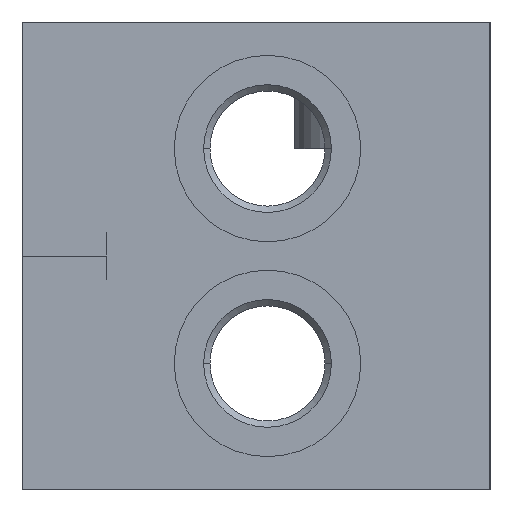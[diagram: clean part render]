
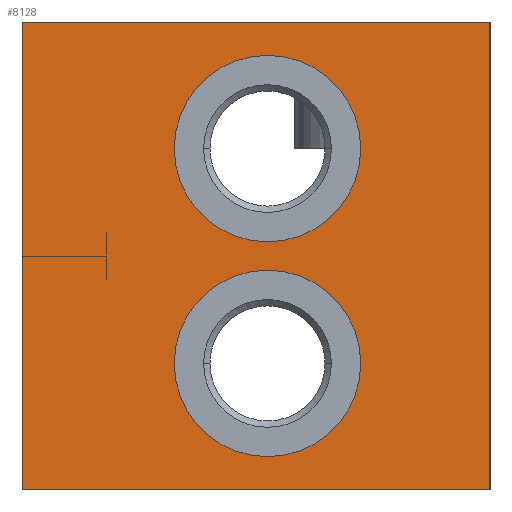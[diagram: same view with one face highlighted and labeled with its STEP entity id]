
A CAD part, left-side view. The second image highlights one B-rep face of the part: STEP entity #8128.
In plain terms, the highlighted planar face has unit normal (-1, 0, 0).
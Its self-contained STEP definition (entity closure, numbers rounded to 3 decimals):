
#25=DIRECTION('',(0.,-1.,0.));
#26=VECTOR('',#25,61.);
#27=CARTESIAN_POINT('',(0.,61.,0.));
#28=LINE('',#27,#26);
#217=DIRECTION('',(0.,0.,-1.));
#218=VECTOR('',#217,61.);
#219=CARTESIAN_POINT('',(0.,0.,0.));
#220=LINE('',#219,#218);
#1603=DIRECTION('',(0.,0.,-1.));
#1604=VECTOR('',#1603,61.);
#1605=CARTESIAN_POINT('',(0.,61.,0.));
#1606=LINE('',#1605,#1604);
#1607=CARTESIAN_POINT('',(0.,29.,-44.5));
#1608=DIRECTION('',(1.,0.,0.));
#1609=DIRECTION('',(0.,-1.,0.));
#1610=AXIS2_PLACEMENT_3D('',#1607,#1608,#1609);
#1612=CARTESIAN_POINT('',(0.,29.,-44.5));
#1613=DIRECTION('',(1.,0.,0.));
#1614=DIRECTION('',(0.,1.,0.));
#1615=AXIS2_PLACEMENT_3D('',#1612,#1613,#1614);
#1617=CARTESIAN_POINT('',(0.,29.,-16.5));
#1618=DIRECTION('',(1.,0.,0.));
#1619=DIRECTION('',(0.,-1.,0.));
#1620=AXIS2_PLACEMENT_3D('',#1617,#1618,#1619);
#1622=CARTESIAN_POINT('',(0.,29.,-16.5));
#1623=DIRECTION('',(1.,0.,0.));
#1624=DIRECTION('',(0.,1.,0.));
#1625=AXIS2_PLACEMENT_3D('',#1622,#1623,#1624);
#1639=DIRECTION('',(0.,-1.,0.));
#1640=VECTOR('',#1639,61.);
#1641=CARTESIAN_POINT('',(0.,61.,-61.));
#1642=LINE('',#1641,#1640);
#6293=CARTESIAN_POINT('',(0.,0.,0.));
#6295=VERTEX_POINT('',#6293);
#6299=CARTESIAN_POINT('',(0.,61.,0.));
#6300=VERTEX_POINT('',#6299);
#6301=CARTESIAN_POINT('',(0.,0.,-61.));
#6303=VERTEX_POINT('',#6301);
#6307=CARTESIAN_POINT('',(0.,61.,-61.));
#6308=VERTEX_POINT('',#6307);
#6321=CARTESIAN_POINT('',(0.,16.85,-44.5));
#6322=CARTESIAN_POINT('',(0.,41.15,-44.5));
#6323=VERTEX_POINT('',#6321);
#6324=VERTEX_POINT('',#6322);
#6337=CARTESIAN_POINT('',(0.,16.85,-16.5));
#6338=CARTESIAN_POINT('',(0.,41.15,-16.5));
#6339=VERTEX_POINT('',#6337);
#6340=VERTEX_POINT('',#6338);
#8104=CARTESIAN_POINT('',(0.,61.,0.));
#8105=DIRECTION('',(-1.,0.,0.));
#8106=DIRECTION('',(0.,-1.,0.));
#8107=AXIS2_PLACEMENT_3D('',#8104,#8105,#8106);
#8108=PLANE('',#8107);
#8109=ORIENTED_EDGE('',*,*,#7494,.T.);
#8110=ORIENTED_EDGE('',*,*,#7621,.T.);
#8112=ORIENTED_EDGE('',*,*,#8111,.F.);
#8113=ORIENTED_EDGE('',*,*,#7700,.F.);
#8114=EDGE_LOOP('',(#8109,#8110,#8112,#8113));
#8115=FACE_OUTER_BOUND('',#8114,.F.);
#8117=ORIENTED_EDGE('',*,*,#8116,.F.);
#8119=ORIENTED_EDGE('',*,*,#8118,.F.);
#8120=EDGE_LOOP('',(#8117,#8119));
#8121=FACE_BOUND('',#8120,.F.);
#8123=ORIENTED_EDGE('',*,*,#8122,.F.);
#8125=ORIENTED_EDGE('',*,*,#8124,.F.);
#8126=EDGE_LOOP('',(#8123,#8125));
#8127=FACE_BOUND('',#8126,.F.);
#1611=CIRCLE('',#1610,12.15);
#1616=CIRCLE('',#1615,12.15);
#1621=CIRCLE('',#1620,12.15);
#1626=CIRCLE('',#1625,12.15);
#7494=EDGE_CURVE('',#6300,#6295,#28,.T.);
#7621=EDGE_CURVE('',#6295,#6303,#220,.T.);
#7700=EDGE_CURVE('',#6300,#6308,#1606,.T.);
#8111=EDGE_CURVE('',#6308,#6303,#1642,.T.);
#8116=EDGE_CURVE('',#6323,#6324,#1611,.T.);
#8118=EDGE_CURVE('',#6324,#6323,#1616,.T.);
#8122=EDGE_CURVE('',#6339,#6340,#1621,.T.);
#8124=EDGE_CURVE('',#6340,#6339,#1626,.T.);
#8128=ADVANCED_FACE('',(#8115,#8121,#8127),#8108,.T.);
